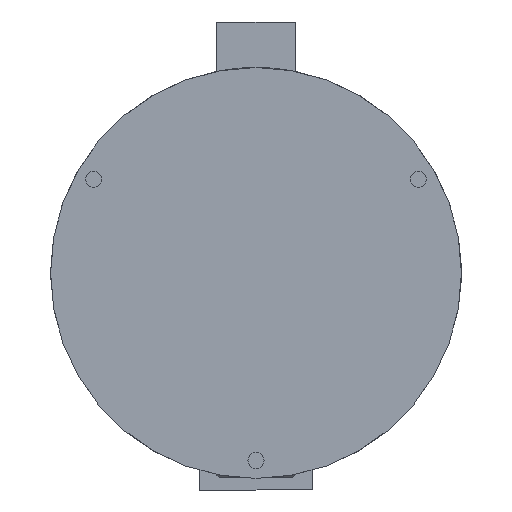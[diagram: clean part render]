
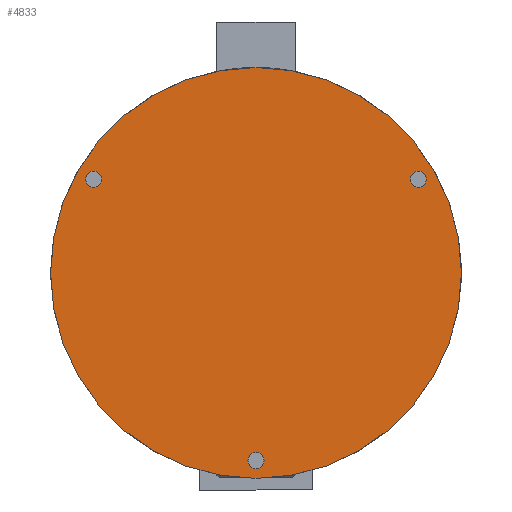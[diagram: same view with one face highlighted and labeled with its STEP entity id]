
A CAD part, front view. The second image highlights one B-rep face of the part: STEP entity #4833.
In plain terms, the highlighted planar face has unit normal (0, -1, 0).
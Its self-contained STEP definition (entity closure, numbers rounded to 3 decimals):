
#120 = CARTESIAN_POINT ( 'NONE',  ( -90.933, 0., 57. ) ) ;
#165 = EDGE_LOOP ( 'NONE', ( #5182, #3175 ) ) ;
#237 = CARTESIAN_POINT ( 'NONE',  ( 90.933, 0., 57. ) ) ;
#315 = CIRCLE ( 'NONE', #2269, 4.5 ) ;
#371 = CIRCLE ( 'NONE', #2507, 4.5 ) ;
#378 = CARTESIAN_POINT ( 'NONE',  ( 0., 0., -109.5 ) ) ;
#464 = DIRECTION ( 'NONE',  ( 0., 1., 0. ) ) ;
#473 = EDGE_LOOP ( 'NONE', ( #5607, #8935 ) ) ;
#496 = EDGE_LOOP ( 'NONE', ( #1199, #6743 ) ) ;
#532 = CARTESIAN_POINT ( 'NONE',  ( 0., 0., 0. ) ) ;
#684 = AXIS2_PLACEMENT_3D ( 'NONE', #7353, #3098, #8032 ) ;
#731 = CIRCLE ( 'NONE', #5661, 4.5 ) ;
#760 = VERTEX_POINT ( 'NONE', #378 ) ;
#1011 = VERTEX_POINT ( 'NONE', #4412 ) ;
#1024 = VERTEX_POINT ( 'NONE', #1752 ) ;
#1096 = VERTEX_POINT ( 'NONE', #8583 ) ;
#1117 = DIRECTION ( 'NONE',  ( 0., 1., 0. ) ) ;
#1156 = VERTEX_POINT ( 'NONE', #237 ) ;
#1199 = ORIENTED_EDGE ( 'NONE', *, *, #3860, .F. ) ;
#1215 = CIRCLE ( 'NONE', #7745, 4.5 ) ;
#1248 = DIRECTION ( 'NONE',  ( 0., 0., 1. ) ) ;
#1354 = EDGE_LOOP ( 'NONE', ( #5396, #6959 ) ) ;
#1370 = DIRECTION ( 'NONE',  ( 0., 1., 0. ) ) ;
#1561 = AXIS2_PLACEMENT_3D ( 'NONE', #5557, #1117, #6225 ) ;
#1752 = CARTESIAN_POINT ( 'NONE',  ( 90.933, 0., 48. ) ) ;
#1835 = CARTESIAN_POINT ( 'NONE',  ( -90.933, 0., 48. ) ) ;
#2269 = AXIS2_PLACEMENT_3D ( 'NONE', #3196, #8098, #3997 ) ;
#2299 = VERTEX_POINT ( 'NONE', #6386 ) ;
#2507 = AXIS2_PLACEMENT_3D ( 'NONE', #4933, #464, #5619 ) ;
#2638 = FACE_BOUND ( 'NONE', #1354, .T. ) ;
#2819 = CIRCLE ( 'NONE', #4587, 115. ) ;
#2897 = FACE_BOUND ( 'NONE', #473, .T. ) ;
#2947 = DIRECTION ( 'NONE',  ( 0., 1., 0. ) ) ;
#3098 = DIRECTION ( 'NONE',  ( 0., 1., 0. ) ) ;
#3175 = ORIENTED_EDGE ( 'NONE', *, *, #3227, .T. ) ;
#3196 = CARTESIAN_POINT ( 'NONE',  ( 0., 0., -105. ) ) ;
#3227 = EDGE_CURVE ( 'NONE', #760, #2299, #4938, .T. ) ;
#3657 = CARTESIAN_POINT ( 'NONE',  ( 0., 0., 0. ) ) ;
#3860 = EDGE_CURVE ( 'NONE', #1011, #1096, #8025, .T. ) ;
#3938 = DIRECTION ( 'NONE',  ( 0., 1., 0. ) ) ;
#3997 = DIRECTION ( 'NONE',  ( 0., 0., 1. ) ) ;
#4403 = CARTESIAN_POINT ( 'NONE',  ( 0., 0., -105. ) ) ;
#4412 = CARTESIAN_POINT ( 'NONE',  ( 0., 0., -115. ) ) ;
#4458 = DIRECTION ( 'NONE',  ( 0., 0., 1. ) ) ;
#4558 = EDGE_CURVE ( 'NONE', #1024, #1156, #731, .T. ) ;
#4587 = AXIS2_PLACEMENT_3D ( 'NONE', #532, #5679, #1248 ) ;
#4741 = FACE_BOUND ( 'NONE', #165, .T. ) ;
#4833 = ADVANCED_FACE ( 'NONE', ( #2897, #2638, #4741, #6504 ), #7806, .F. ) ;
#4933 = CARTESIAN_POINT ( 'NONE',  ( -90.933, 0., 52.5 ) ) ;
#4938 = CIRCLE ( 'NONE', #8752, 4.5 ) ;
#5182 = ORIENTED_EDGE ( 'NONE', *, *, #9018, .T. ) ;
#5396 = ORIENTED_EDGE ( 'NONE', *, *, #8782, .T. ) ;
#5557 = CARTESIAN_POINT ( 'NONE',  ( -90.933, 0., 52.5 ) ) ;
#5581 = VERTEX_POINT ( 'NONE', #1835 ) ;
#5607 = ORIENTED_EDGE ( 'NONE', *, *, #6368, .T. ) ;
#5619 = DIRECTION ( 'NONE',  ( 0., 0., 1. ) ) ;
#5661 = AXIS2_PLACEMENT_3D ( 'NONE', #8052, #3938, #8716 ) ;
#5679 = DIRECTION ( 'NONE',  ( 0., 1., 0. ) ) ;
#6225 = DIRECTION ( 'NONE',  ( 0., 0., 1. ) ) ;
#6368 = EDGE_CURVE ( 'NONE', #8873, #5581, #6384, .T. ) ;
#6384 = CIRCLE ( 'NONE', #1561, 4.5 ) ;
#6386 = CARTESIAN_POINT ( 'NONE',  ( 0., 0., -100.5 ) ) ;
#6428 = EDGE_CURVE ( 'NONE', #5581, #8873, #371, .T. ) ;
#6504 = FACE_OUTER_BOUND ( 'NONE', #496, .T. ) ;
#6743 = ORIENTED_EDGE ( 'NONE', *, *, #8557, .F. ) ;
#6959 = ORIENTED_EDGE ( 'NONE', *, *, #4558, .T. ) ;
#7131 = DIRECTION ( 'NONE',  ( 0., 1., 0. ) ) ;
#7215 = CARTESIAN_POINT ( 'NONE',  ( 90.933, 0., 52.5 ) ) ;
#7353 = CARTESIAN_POINT ( 'NONE',  ( 0., 0., 0. ) ) ;
#7568 = AXIS2_PLACEMENT_3D ( 'NONE', #3657, #1370, #4458 ) ;
#7745 = AXIS2_PLACEMENT_3D ( 'NONE', #7215, #2947, #7889 ) ;
#7806 = PLANE ( 'NONE',  #7568 ) ;
#7889 = DIRECTION ( 'NONE',  ( 0., 0., 1. ) ) ;
#7988 = DIRECTION ( 'NONE',  ( 0., 0., 1. ) ) ;
#8025 = CIRCLE ( 'NONE', #684, 115. ) ;
#8032 = DIRECTION ( 'NONE',  ( 0., 0., 1. ) ) ;
#8052 = CARTESIAN_POINT ( 'NONE',  ( 90.933, 0., 52.5 ) ) ;
#8098 = DIRECTION ( 'NONE',  ( 0., 1., 0. ) ) ;
#8557 = EDGE_CURVE ( 'NONE', #1096, #1011, #2819, .T. ) ;
#8583 = CARTESIAN_POINT ( 'NONE',  ( 0., 0., 115. ) ) ;
#8716 = DIRECTION ( 'NONE',  ( 0., 0., 1. ) ) ;
#8752 = AXIS2_PLACEMENT_3D ( 'NONE', #4403, #7131, #7988 ) ;
#8782 = EDGE_CURVE ( 'NONE', #1156, #1024, #1215, .T. ) ;
#8873 = VERTEX_POINT ( 'NONE', #120 ) ;
#8935 = ORIENTED_EDGE ( 'NONE', *, *, #6428, .T. ) ;
#9018 = EDGE_CURVE ( 'NONE', #2299, #760, #315, .T. ) ;
